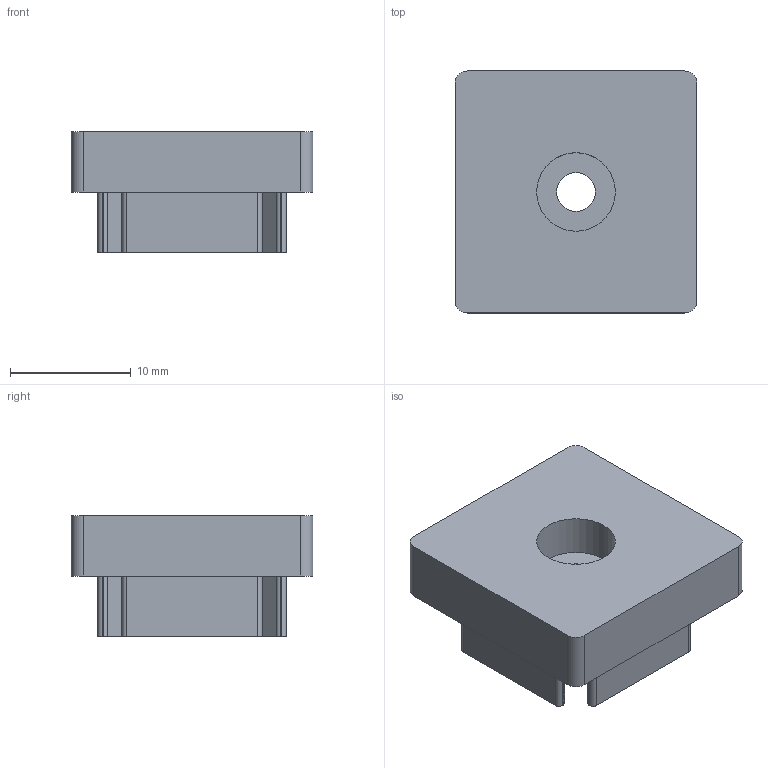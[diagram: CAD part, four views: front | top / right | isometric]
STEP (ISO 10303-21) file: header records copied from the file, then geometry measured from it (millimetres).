
FILE_DESCRIPTION(/* description */ ('','CAx-IF Rec.Pracs.---Representation and Presentation of Product Manufacturing Information (PMI)---4.0---2014-10-13'),/* implementation_level */ '2;1');
FILE_NAME(/* name */ 'tappo_02.stp',/* time_stamp */ '2026-02-28T20:13:55+01:00',/* author */ ('R5800u'),/* organization */ (''),/* preprocessor_version */ 'ST-DEVELOPER v20',/* originating_system */ 'Autodesk Inventor 2025',/* authorisation */ '');
FILE_SCHEMA (('AP242_MANAGED_MODEL_BASED_3D_ENGINEERING_MIM_LF { 1 0 10303 442 1 1 4 }'));
Length unit declared in the file: millimetre
Products named in the file (1): tappo_02
Bounding box: 20 x 20 x 10 mm (x, y, z)
Volume: 2593 mm3; surface area: 1906.4 mm2
Topology: 2 solids, 2 shells, 66 faces, 174 edges, 116 vertices
Faces by surface type: plane 36, cylinder 30
Full cylindrical faces by diameter (mm): 3.2 x1, 6.5 x1
Entity records: 2274 total; most frequent: CARTESIAN_POINT 403, DIRECTION 394, ORIENTED_EDGE 348, EDGE_CURVE 174, AXIS2_PLACEMENT_3D 140, VERTEX_POINT 116, LINE 114, VECTOR 114
